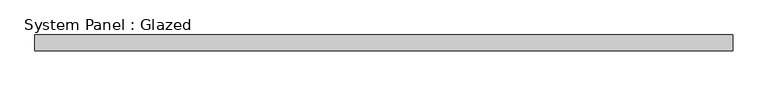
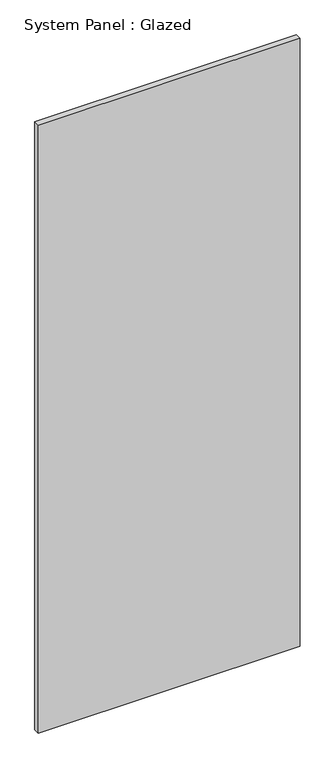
"""IFC4 building model written with IfcOpenShell, lengths in millimetres: plate geometry, System Panel : Glazed."""

from ifc_helpers import new_model, si_unit, origin, origin_with_axes, place, context, project, spatial, polyline, outline, extrude, source, transform, mapped, element, save


def system_panel_glazed_6057b9a2(model_context):
    return source(origin(), model_context, "Body", "SweptSolid", [
        extrude(outline(polyline([(550.0000001, 24.5), (-550.0000001, 24.5), (-550.0000001, 49.5), (550.0000001, 49.5), (550.0000001, 24.5)])), origin_with_axes(), (0.0, 0.0, 1.0), 2700.0),
    ])


if __name__ == "__main__":
    model = new_model("IFC4")
    model_context = context("Model", 3, world=origin())
    ifc_project = project(units=[si_unit("LENGTHUNIT", "METRE", prefix="MILLI")], contexts=[model_context])
    site = spatial("IfcSite", under=ifc_project)
    building = spatial("IfcBuilding", under=site)
    placement = place(None, origin())
    system_panel_glazed_shape = system_panel_glazed_6057b9a2(model_context)
    element("IfcPlate", 1, ObjectType="System Panel : Glazed", at=placement, inside=building, context=model_context, shape_type="MappedRepresentation", body=[
        mapped(system_panel_glazed_shape, transform((0.0, 0.0, 0.0), x_axis=(1.0, 0.0, 0.0), y_axis=(0.0, 1.0, 0.0), z_axis=(0.0, 0.0, 1.0))),
    ])
    save(model, "model.ifc")
